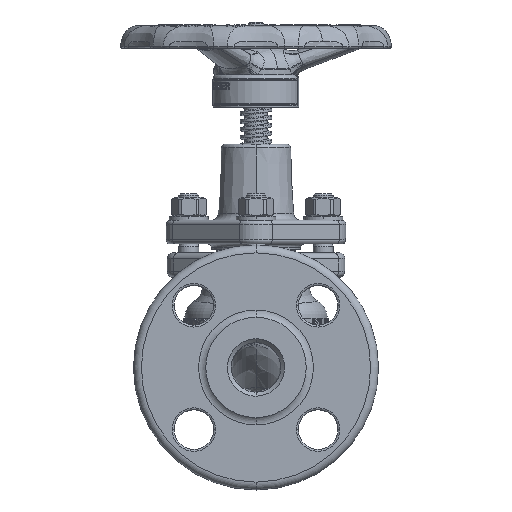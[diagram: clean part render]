
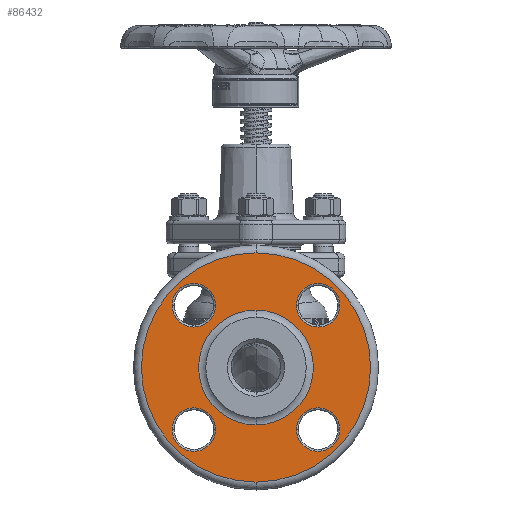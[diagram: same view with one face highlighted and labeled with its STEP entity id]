
A CAD part, left-side view. The second image highlights one B-rep face of the part: STEP entity #86432.
In plain terms, the highlighted planar face has unit normal (-1, 0, 0).
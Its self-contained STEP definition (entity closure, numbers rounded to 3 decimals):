
#21452=CARTESIAN_POINT('',(-99.9,0.,0.));
#21453=DIRECTION('',(-1.,0.,0.));
#21454=DIRECTION('',(0.,0.,1.));
#21455=AXIS2_PLACEMENT_3D('',#21452,#21453,#21454);
#21467=CARTESIAN_POINT('',(-99.9,0.,0.));
#21468=DIRECTION('',(1.,0.,0.));
#21469=DIRECTION('',(0.,0.,1.));
#21470=AXIS2_PLACEMENT_3D('',#21467,#21468,#21469);
#21477=CARTESIAN_POINT('',(-99.9,0.,0.));
#21478=DIRECTION('',(-1.,0.,0.));
#21479=DIRECTION('',(0.,0.,1.));
#21480=AXIS2_PLACEMENT_3D('',#21477,#21478,#21479);
#21482=CARTESIAN_POINT('',(-99.9,0.,0.));
#21483=DIRECTION('',(-1.,0.,0.));
#21484=DIRECTION('',(0.,0.,-1.));
#21485=AXIS2_PLACEMENT_3D('',#21482,#21483,#21484);
#21487=CARTESIAN_POINT('',(-99.9,-31.431,31.431));
#21488=DIRECTION('',(1.,0.,0.));
#21489=DIRECTION('',(0.,1.,0.));
#21490=AXIS2_PLACEMENT_3D('',#21487,#21488,#21489);
#21492=CARTESIAN_POINT('',(-99.9,-31.431,31.431));
#21493=DIRECTION('',(1.,0.,0.));
#21494=DIRECTION('',(0.,-1.,0.));
#21495=AXIS2_PLACEMENT_3D('',#21492,#21493,#21494);
#21497=CARTESIAN_POINT('',(-99.9,-31.431,-31.431));
#21498=DIRECTION('',(1.,0.,0.));
#21499=DIRECTION('',(0.,1.,0.));
#21500=AXIS2_PLACEMENT_3D('',#21497,#21498,#21499);
#21502=CARTESIAN_POINT('',(-99.9,-31.431,-31.431));
#21503=DIRECTION('',(1.,0.,0.));
#21504=DIRECTION('',(0.,-1.,0.));
#21505=AXIS2_PLACEMENT_3D('',#21502,#21503,#21504);
#21507=CARTESIAN_POINT('',(-99.9,31.431,-31.431));
#21508=DIRECTION('',(1.,0.,0.));
#21509=DIRECTION('',(0.,1.,0.));
#21510=AXIS2_PLACEMENT_3D('',#21507,#21508,#21509);
#21512=CARTESIAN_POINT('',(-99.9,31.431,-31.431));
#21513=DIRECTION('',(1.,0.,0.));
#21514=DIRECTION('',(0.,-1.,0.));
#21515=AXIS2_PLACEMENT_3D('',#21512,#21513,#21514);
#21517=CARTESIAN_POINT('',(-99.9,31.431,31.431));
#21518=DIRECTION('',(1.,0.,0.));
#21519=DIRECTION('',(0.,1.,0.));
#21520=AXIS2_PLACEMENT_3D('',#21517,#21518,#21519);
#21522=CARTESIAN_POINT('',(-99.9,31.431,31.431));
#21523=DIRECTION('',(1.,0.,0.));
#21524=DIRECTION('',(0.,-1.,0.));
#21525=AXIS2_PLACEMENT_3D('',#21522,#21523,#21524);
#39469=CARTESIAN_POINT('',(-99.9,0.,29.066));
#39470=CARTESIAN_POINT('',(-99.9,0.,-29.066));
#39471=VERTEX_POINT('',#39469);
#39472=VERTEX_POINT('',#39470);
#39543=CARTESIAN_POINT('',(-99.9,0.,58.));
#39544=CARTESIAN_POINT('',(-99.9,0.,-58.));
#39545=VERTEX_POINT('',#39543);
#39546=VERTEX_POINT('',#39544);
#39575=CARTESIAN_POINT('',(-99.9,-20.431,31.431));
#39576=CARTESIAN_POINT('',(-99.9,-42.431,31.431));
#39577=VERTEX_POINT('',#39575);
#39578=VERTEX_POINT('',#39576);
#39607=CARTESIAN_POINT('',(-99.9,-20.431,-31.431));
#39608=CARTESIAN_POINT('',(-99.9,-42.431,-31.431));
#39609=VERTEX_POINT('',#39607);
#39610=VERTEX_POINT('',#39608);
#39639=CARTESIAN_POINT('',(-99.9,42.431,-31.431));
#39640=CARTESIAN_POINT('',(-99.9,20.431,-31.431));
#39641=VERTEX_POINT('',#39639);
#39642=VERTEX_POINT('',#39640);
#39671=CARTESIAN_POINT('',(-99.9,42.431,31.431));
#39672=CARTESIAN_POINT('',(-99.9,20.431,31.431));
#39673=VERTEX_POINT('',#39671);
#39674=VERTEX_POINT('',#39672);
#86393=CARTESIAN_POINT('',(-99.9,0.,0.));
#86394=DIRECTION('',(-1.,0.,0.));
#86395=DIRECTION('',(0.,0.,1.));
#86396=AXIS2_PLACEMENT_3D('',#86393,#86394,#86395);
#86397=PLANE('',#86396);
#86399=ORIENTED_EDGE('',*,*,#86398,.F.);
#86401=ORIENTED_EDGE('',*,*,#86400,.F.);
#86402=EDGE_LOOP('',(#86399,#86401));
#86403=FACE_OUTER_BOUND('',#86402,.F.);
#86404=ORIENTED_EDGE('',*,*,#86373,.T.);
#86405=ORIENTED_EDGE('',*,*,#86387,.F.);
#86406=EDGE_LOOP('',(#86404,#86405));
#86407=FACE_BOUND('',#86406,.F.);
#86409=ORIENTED_EDGE('',*,*,#86408,.F.);
#86411=ORIENTED_EDGE('',*,*,#86410,.F.);
#86412=EDGE_LOOP('',(#86409,#86411));
#86413=FACE_BOUND('',#86412,.F.);
#86415=ORIENTED_EDGE('',*,*,#86414,.F.);
#86417=ORIENTED_EDGE('',*,*,#86416,.F.);
#86418=EDGE_LOOP('',(#86415,#86417));
#86419=FACE_BOUND('',#86418,.F.);
#86421=ORIENTED_EDGE('',*,*,#86420,.F.);
#86423=ORIENTED_EDGE('',*,*,#86422,.F.);
#86424=EDGE_LOOP('',(#86421,#86423));
#86425=FACE_BOUND('',#86424,.F.);
#86427=ORIENTED_EDGE('',*,*,#86426,.F.);
#86429=ORIENTED_EDGE('',*,*,#86428,.F.);
#86430=EDGE_LOOP('',(#86427,#86429));
#86431=FACE_BOUND('',#86430,.F.);
#86432=ADVANCED_FACE('',(#86403,#86407,#86413,#86419,#86425,#86431),#86397,.T.);
#21456=CIRCLE('',#21455,29.066);
#21471=CIRCLE('',#21470,29.066);
#21481=CIRCLE('',#21480,58.);
#21486=CIRCLE('',#21485,58.);
#21491=CIRCLE('',#21490,11.);
#21496=CIRCLE('',#21495,11.);
#21501=CIRCLE('',#21500,11.);
#21506=CIRCLE('',#21505,11.);
#21511=CIRCLE('',#21510,11.);
#21516=CIRCLE('',#21515,11.);
#21521=CIRCLE('',#21520,11.);
#21526=CIRCLE('',#21525,11.);
#86373=EDGE_CURVE('',#39471,#39472,#21456,.T.);
#86387=EDGE_CURVE('',#39471,#39472,#21471,.T.);
#86398=EDGE_CURVE('',#39545,#39546,#21481,.T.);
#86400=EDGE_CURVE('',#39546,#39545,#21486,.T.);
#86408=EDGE_CURVE('',#39577,#39578,#21491,.T.);
#86410=EDGE_CURVE('',#39578,#39577,#21496,.T.);
#86414=EDGE_CURVE('',#39609,#39610,#21501,.T.);
#86416=EDGE_CURVE('',#39610,#39609,#21506,.T.);
#86420=EDGE_CURVE('',#39641,#39642,#21511,.T.);
#86422=EDGE_CURVE('',#39642,#39641,#21516,.T.);
#86426=EDGE_CURVE('',#39673,#39674,#21521,.T.);
#86428=EDGE_CURVE('',#39674,#39673,#21526,.T.);
